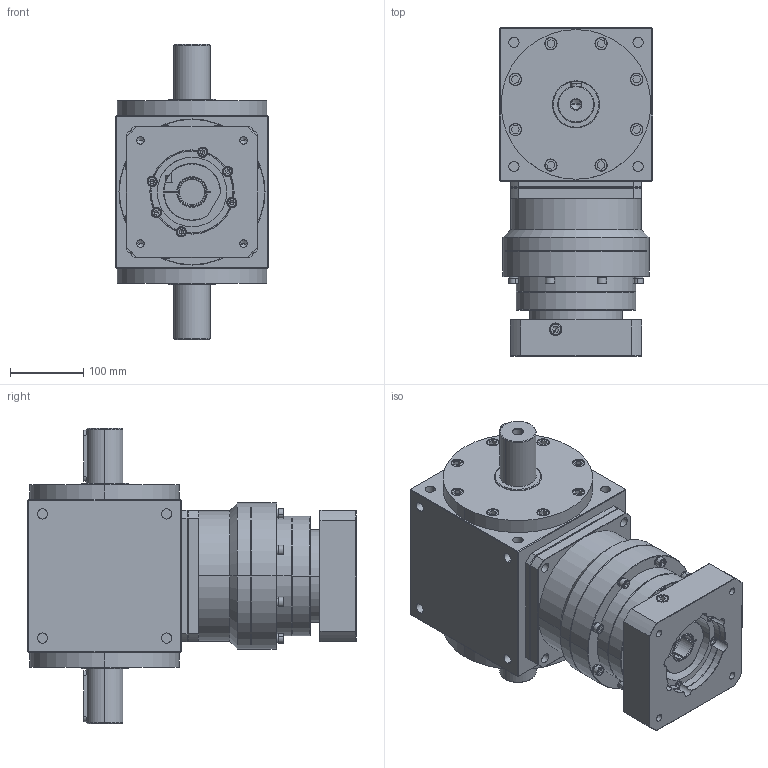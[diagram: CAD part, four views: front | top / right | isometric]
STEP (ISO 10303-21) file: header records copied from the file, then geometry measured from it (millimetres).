
FILE_DESCRIPTION (( 'STEP AP203' ), '1' );
FILE_NAME ('AT210-FL-L2 35-114.3-200-M12.STEP', '2024-12-30T07:28:55', ( '' ), ( '' ), 'SwSTEP 2.0', 'SolidWorks 2021', '' );
FILE_SCHEMA (( 'CONFIG_CONTROL_DESIGN' ));
Length unit declared in the file: millimetre
Products named in the file (3): AT210-FL-L1 35-114.3-200-M12; KS180L2-114.3-35-83-M12-200俋倛芞; AT210-FL-L2 35-114.3-200-M12
Assembly tree (2 placements, depth 2):
  AT210-FL-L2 35-114.3-200-M12
    AT210-FL-L1 35-114.3-200-M12
    KS180L2-114.3-35-83-M12-200俋倛芞
Bounding box: 210 x 449.5 x 404 mm (x, y, z)
Volume: 16872207.4 mm3; surface area: 844365.1 mm2
Topology: 45 solids, 45 shells, 1425 faces, 3388 edges, 2106 vertices
Faces by surface type: plane 679, cylinder 516, cone 188, bspline 42
Entity records: 41917 total; most frequent: CARTESIAN_POINT 8828, DIRECTION 7092, ORIENTED_EDGE 6648, EDGE_CURVE 3324, AXIS2_PLACEMENT_3D 2710, VERTEX_POINT 2106, LINE 1672, VECTOR 1672
